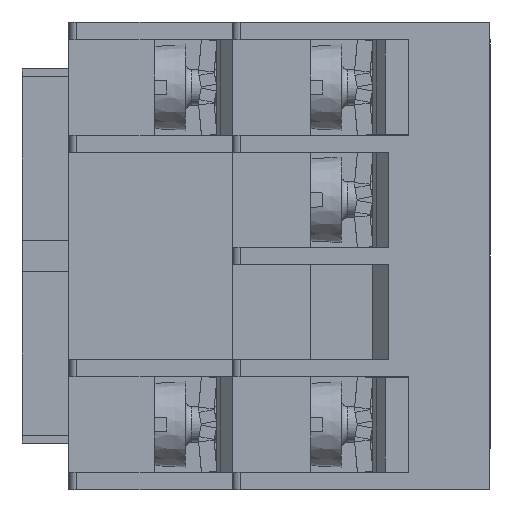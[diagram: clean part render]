
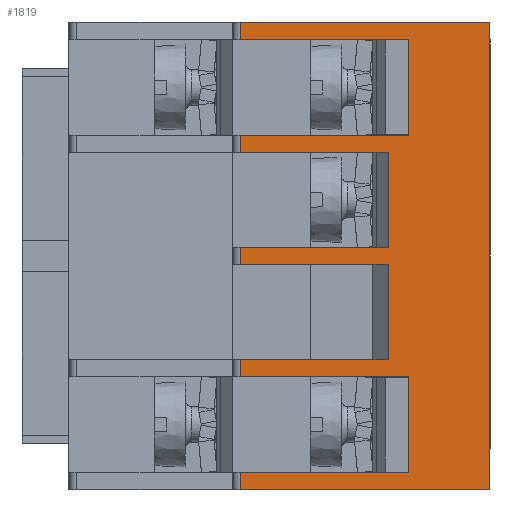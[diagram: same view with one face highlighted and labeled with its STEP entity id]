
A CAD part, left-side view. The second image highlights one B-rep face of the part: STEP entity #1819.
In plain terms, the highlighted planar face has unit normal (-1, 0, 0).
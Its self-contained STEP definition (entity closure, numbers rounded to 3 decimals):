
#1819=ADVANCED_FACE('',(#24009),#24011,.T.);
#24009=FACE_BOUND('',#24010,.T.);
#24010=EDGE_LOOP('',(#46926,#46927,#46928,#46929,#46930,#46931,#46932,#46933,#46934,
#46935,#46936,#46937,#46938,#46939,#46940,#46941,#46942,#46943,#46944,#46945));
#24011=PLANE('',#24012);
#24012=AXIS2_PLACEMENT_3D('',#24013,#24014,#24015);
#24013=CARTESIAN_POINT('',(-43.65,0.,-15.));
#24014=DIRECTION('',(-1.,0.,0.));
#24015=DIRECTION('',(0.,0.,1.));
#46926=ORIENTED_EDGE('',*,*,#60417,.T.);
#46927=ORIENTED_EDGE('',*,*,#60418,.T.);
#46928=ORIENTED_EDGE('',*,*,#59770,.F.);
#46929=ORIENTED_EDGE('',*,*,#60400,.T.);
#46930=ORIENTED_EDGE('',*,*,#60419,.T.);
#46931=ORIENTED_EDGE('',*,*,#60420,.T.);
#46932=ORIENTED_EDGE('',*,*,#60421,.T.);
#46933=ORIENTED_EDGE('',*,*,#60422,.T.);
#46934=ORIENTED_EDGE('',*,*,#60423,.T.);
#46935=ORIENTED_EDGE('',*,*,#60424,.T.);
#46936=ORIENTED_EDGE('',*,*,#60425,.T.);
#46937=ORIENTED_EDGE('',*,*,#60426,.F.);
#46938=ORIENTED_EDGE('',*,*,#60427,.T.);
#46939=ORIENTED_EDGE('',*,*,#60428,.T.);
#46940=ORIENTED_EDGE('',*,*,#60429,.T.);
#46941=ORIENTED_EDGE('',*,*,#60430,.F.);
#46942=ORIENTED_EDGE('',*,*,#60431,.T.);
#46943=ORIENTED_EDGE('',*,*,#60432,.T.);
#46944=ORIENTED_EDGE('',*,*,#60433,.T.);
#46945=ORIENTED_EDGE('',*,*,#60434,.T.);
#59770=EDGE_CURVE('',#67031,#67033,#67034,.T.);
#60400=EDGE_CURVE('',#67031,#68104,#68107,.T.);
#60417=EDGE_CURVE('',#68139,#68140,#68141,.F.);
#60418=EDGE_CURVE('',#68140,#67033,#68142,.T.);
#60419=EDGE_CURVE('',#68104,#68143,#68144,.T.);
#60420=EDGE_CURVE('',#68143,#68145,#68146,.T.);
#60421=EDGE_CURVE('',#68145,#68147,#68148,.F.);
#60422=EDGE_CURVE('',#68147,#68149,#68150,.F.);
#60423=EDGE_CURVE('',#68149,#68151,#68152,.F.);
#60424=EDGE_CURVE('',#68151,#68153,#68154,.T.);
#60425=EDGE_CURVE('',#68153,#68155,#68156,.F.);
#60426=EDGE_CURVE('',#68157,#68155,#68158,.T.);
#60427=EDGE_CURVE('',#68157,#68159,#68160,.F.);
#60428=EDGE_CURVE('',#68159,#68161,#68162,.T.);
#60429=EDGE_CURVE('',#68161,#68163,#68164,.F.);
#60430=EDGE_CURVE('',#68165,#68163,#68166,.T.);
#60431=EDGE_CURVE('',#68165,#68167,#68168,.F.);
#60432=EDGE_CURVE('',#68167,#68169,#68170,.T.);
#60433=EDGE_CURVE('',#68169,#68171,#68172,.F.);
#60434=EDGE_CURVE('',#68171,#68139,#68173,.F.);
#67031=VERTEX_POINT('',#79282);
#67033=VERTEX_POINT('',#79286);
#67034=LINE('',#79287,#79288);
#68104=VERTEX_POINT('',#81858);
#68107=LINE('',#81863,#81864);
#68139=VERTEX_POINT('',#81929);
#68140=VERTEX_POINT('',#81930);
#68141=LINE('',#81931,#81932);
#68142=LINE('',#81934,#81935);
#68143=VERTEX_POINT('',#81937);
#68144=LINE('',#81938,#81939);
#68145=VERTEX_POINT('',#81941);
#68146=LINE('',#81942,#81943);
#68147=VERTEX_POINT('',#81945);
#68148=LINE('',#81946,#81947);
#68149=VERTEX_POINT('',#81949);
#68150=LINE('',#81950,#81951);
#68151=VERTEX_POINT('',#81953);
#68152=LINE('',#81954,#81955);
#68153=VERTEX_POINT('',#81957);
#68154=LINE('',#81958,#81959);
#68155=VERTEX_POINT('',#81961);
#68156=LINE('',#81962,#81963);
#68157=VERTEX_POINT('',#81965);
#68158=LINE('',#81966,#81967);
#68159=VERTEX_POINT('',#81969);
#68160=LINE('',#81970,#81971);
#68161=VERTEX_POINT('',#81973);
#68162=LINE('',#81974,#81975);
#68163=VERTEX_POINT('',#81977);
#68164=LINE('',#81978,#81979);
#68165=VERTEX_POINT('',#81981);
#68166=LINE('',#81982,#81983);
#68167=VERTEX_POINT('',#81985);
#68168=LINE('',#81986,#81987);
#68169=VERTEX_POINT('',#81989);
#68170=LINE('',#81990,#81991);
#68171=VERTEX_POINT('',#81993);
#68172=LINE('',#81994,#81995);
#68173=LINE('',#81997,#81998);
#79282=CARTESIAN_POINT('',(-43.65,0.,-15.));
#79286=CARTESIAN_POINT('',(-43.65,16.,-15.));
#79287=CARTESIAN_POINT('',(-43.65,0.,-15.));
#79288=VECTOR('',#79289,1.);
#79289=DIRECTION('',(0.,1.,0.));
#81858=CARTESIAN_POINT('',(-43.65,0.,15.));
#81863=CARTESIAN_POINT('',(-43.65,0.,-15.));
#81864=VECTOR('',#81865,1.);
#81865=DIRECTION('',(0.,0.,1.));
#81929=CARTESIAN_POINT('',(-43.65,5.2,-13.85));
#81930=CARTESIAN_POINT('',(-43.65,16.,-13.85));
#81931=CARTESIAN_POINT('',(-43.65,16.,-13.85));
#81932=VECTOR('',#81933,1.);
#81933=DIRECTION('',(0.,-1.,0.));
#81934=CARTESIAN_POINT('',(-43.65,16.,-13.85));
#81935=VECTOR('',#81936,1.);
#81936=DIRECTION('',(0.,0.,-1.));
#81937=CARTESIAN_POINT('',(-43.65,16.,15.));
#81938=CARTESIAN_POINT('',(-43.65,0.,15.));
#81939=VECTOR('',#81940,1.);
#81940=DIRECTION('',(0.,1.,0.));
#81941=CARTESIAN_POINT('',(-43.65,16.,13.85));
#81942=CARTESIAN_POINT('',(-43.65,16.,15.));
#81943=VECTOR('',#81944,1.);
#81944=DIRECTION('',(0.,0.,-1.));
#81945=CARTESIAN_POINT('',(-43.65,5.2,13.85));
#81946=CARTESIAN_POINT('',(-43.65,5.2,13.85));
#81947=VECTOR('',#81948,1.);
#81948=DIRECTION('',(0.,1.,0.));
#81949=CARTESIAN_POINT('',(-43.65,5.2,7.75));
#81950=CARTESIAN_POINT('',(-43.65,5.2,7.75));
#81951=VECTOR('',#81952,1.);
#81952=DIRECTION('',(0.,0.,1.));
#81953=CARTESIAN_POINT('',(-43.65,16.,7.75));
#81954=CARTESIAN_POINT('',(-43.65,16.,7.75));
#81955=VECTOR('',#81956,1.);
#81956=DIRECTION('',(0.,-1.,0.));
#81957=CARTESIAN_POINT('',(-43.65,16.,6.65));
#81958=CARTESIAN_POINT('',(-43.65,16.,7.75));
#81959=VECTOR('',#81960,1.);
#81960=DIRECTION('',(0.,0.,-1.));
#81961=CARTESIAN_POINT('',(-43.65,6.5,6.65));
#81962=CARTESIAN_POINT('',(-43.65,6.5,6.65));
#81963=VECTOR('',#81964,1.);
#81964=DIRECTION('',(0.,1.,0.));
#81965=CARTESIAN_POINT('',(-43.65,6.5,0.55));
#81966=CARTESIAN_POINT('',(-43.65,6.5,0.55));
#81967=VECTOR('',#81968,1.);
#81968=DIRECTION('',(0.,0.,1.));
#81969=CARTESIAN_POINT('',(-43.65,16.,0.55));
#81970=CARTESIAN_POINT('',(-43.65,16.,0.55));
#81971=VECTOR('',#81972,1.);
#81972=DIRECTION('',(0.,-1.,0.));
#81973=CARTESIAN_POINT('',(-43.65,16.,-0.55));
#81974=CARTESIAN_POINT('',(-43.65,16.,0.55));
#81975=VECTOR('',#81976,1.);
#81976=DIRECTION('',(0.,0.,-1.));
#81977=CARTESIAN_POINT('',(-43.65,6.5,-0.55));
#81978=CARTESIAN_POINT('',(-43.65,6.5,-0.55));
#81979=VECTOR('',#81980,1.);
#81980=DIRECTION('',(0.,1.,0.));
#81981=CARTESIAN_POINT('',(-43.65,6.5,-6.65));
#81982=CARTESIAN_POINT('',(-43.65,6.5,-6.65));
#81983=VECTOR('',#81984,1.);
#81984=DIRECTION('',(0.,0.,1.));
#81985=CARTESIAN_POINT('',(-43.65,16.,-6.65));
#81986=CARTESIAN_POINT('',(-43.65,16.,-6.65));
#81987=VECTOR('',#81988,1.);
#81988=DIRECTION('',(0.,-1.,0.));
#81989=CARTESIAN_POINT('',(-43.65,16.,-7.75));
#81990=CARTESIAN_POINT('',(-43.65,16.,-6.65));
#81991=VECTOR('',#81992,1.);
#81992=DIRECTION('',(0.,0.,-1.));
#81993=CARTESIAN_POINT('',(-43.65,5.2,-7.75));
#81994=CARTESIAN_POINT('',(-43.65,5.2,-7.75));
#81995=VECTOR('',#81996,1.);
#81996=DIRECTION('',(0.,1.,0.));
#81997=CARTESIAN_POINT('',(-43.65,5.2,-13.85));
#81998=VECTOR('',#81999,1.);
#81999=DIRECTION('',(0.,0.,1.));
